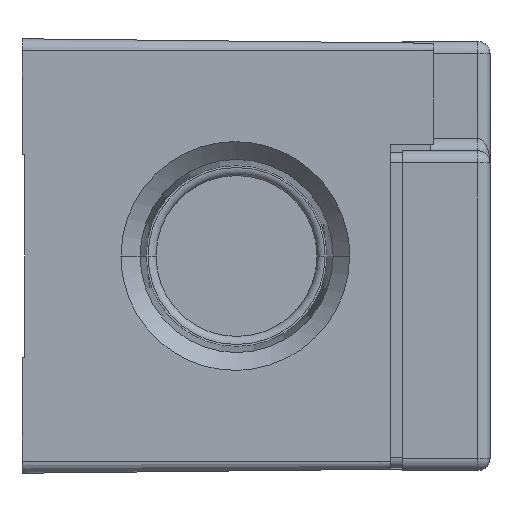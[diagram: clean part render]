
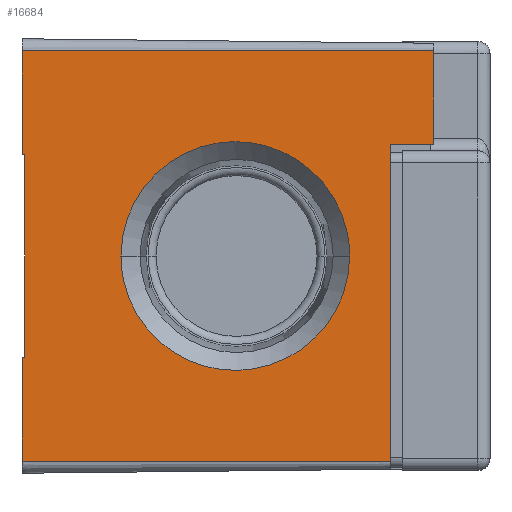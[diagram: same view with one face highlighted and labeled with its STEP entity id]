
A CAD part, front view. The second image highlights one B-rep face of the part: STEP entity #16684.
In plain terms, the highlighted planar face has unit normal (0.011, -1, 0).
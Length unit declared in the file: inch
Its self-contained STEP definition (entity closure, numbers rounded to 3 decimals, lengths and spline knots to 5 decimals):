
#1990=DIRECTION('',(0.,0.,1.));
#1991=VECTOR('',#1990,0.756);
#1992=CARTESIAN_POINT('',(-0.835,-3.20389,-0.378));
#1993=LINE('',#1992,#1991);
#1994=DIRECTION('',(1.,0.011,0.));
#1995=VECTOR('',#1994,0.01);
#1996=CARTESIAN_POINT('',(-0.845,-3.204,0.378));
#1997=LINE('',#1996,#1995);
#1998=DIRECTION('',(0.,0.,1.));
#1999=VECTOR('',#1998,0.387);
#2000=CARTESIAN_POINT('',(-0.845,-3.204,0.378));
#2001=LINE('',#2000,#1999);
#2002=DIRECTION('',(0.,0.,1.));
#2003=VECTOR('',#2002,0.348);
#2004=CARTESIAN_POINT('',(0.69,-3.18739,0.417));
#2005=LINE('',#2004,#2003);
#2006=DIRECTION('',(-1.,-0.011,0.));
#2007=VECTOR('',#2006,0.16001);
#2008=CARTESIAN_POINT('',(0.69,-3.18739,0.417));
#2009=LINE('',#2008,#2007);
#2010=DIRECTION('',(0.,0.,1.));
#2011=VECTOR('',#2010,0.387);
#2012=CARTESIAN_POINT('',(-0.845,-3.204,-0.765));
#2013=LINE('',#2012,#2011);
#2014=DIRECTION('',(1.,0.011,0.));
#2015=VECTOR('',#2014,0.01);
#2016=CARTESIAN_POINT('',(-0.845,-3.204,-0.378));
#2017=LINE('',#2016,#2015);
#2018=CARTESIAN_POINT('',(0.37678,-3.19078,0.));
#2019=CARTESIAN_POINT('',(0.37678,-3.19078,
-0.02512));
#2020=CARTESIAN_POINT('',(0.37232,-3.19083,
-0.07725));
#2021=CARTESIAN_POINT('',(0.34969,-3.19107,
-0.15743));
#2022=CARTESIAN_POINT('',(0.30997,-3.1915,
-0.23469));
#2023=CARTESIAN_POINT('',(0.25407,-3.19211,
-0.30367));
#2024=CARTESIAN_POINT('',(0.19659,-3.19273,
-0.35024));
#2025=CARTESIAN_POINT('',(0.14646,-3.19327,
-0.37943));
#2026=CARTESIAN_POINT('',(0.10746,-3.19369,
-0.39714));
#2027=CARTESIAN_POINT('',(0.06773,-3.19412,
-0.4106));
#2028=CARTESIAN_POINT('',(0.03453,-3.19448,
-0.41836));
#2029=CARTESIAN_POINT('',(0.00822,-3.19477,
-0.42258));
#2030=CARTESIAN_POINT('',(-0.01134,-3.19498,
-0.4248));
#2031=CARTESIAN_POINT('',(-0.02743,-3.19515,
-0.42587));
#2032=CARTESIAN_POINT('',(-0.04017,-3.19529,
-0.4263));
#2033=CARTESIAN_POINT('',(-0.04961,-3.19539,
-0.4264));
#2034=CARTESIAN_POINT('',(-0.05906,-3.19549,
-0.4263));
#2035=CARTESIAN_POINT('',(-0.07179,-3.19563,
-0.42587));
#2036=CARTESIAN_POINT('',(-0.08789,-3.19581,
-0.4248));
#2037=CARTESIAN_POINT('',(-0.10744,-3.19602,
-0.42258));
#2038=CARTESIAN_POINT('',(-0.13376,-3.1963,
-0.41836));
#2039=CARTESIAN_POINT('',(-0.16696,-3.19666,
-0.4106));
#2040=CARTESIAN_POINT('',(-0.20669,-3.19709,
-0.39714));
#2041=CARTESIAN_POINT('',(-0.24569,-3.19751,
-0.37943));
#2042=CARTESIAN_POINT('',(-0.29582,-3.19806,
-0.35024));
#2043=CARTESIAN_POINT('',(-0.3533,-3.19868,
-0.30367));
#2044=CARTESIAN_POINT('',(-0.4092,-3.19928,
-0.23469));
#2045=CARTESIAN_POINT('',(-0.44892,-3.19971,
-0.15743));
#2046=CARTESIAN_POINT('',(-0.47154,-3.19996,
-0.07725));
#2047=CARTESIAN_POINT('',(-0.47601,-3.20001,
-0.02512));
#2048=CARTESIAN_POINT('',(-0.47601,-3.20001,0.));
#2050=CARTESIAN_POINT('',(-0.47601,-3.20001,0.));
#2051=CARTESIAN_POINT('',(-0.47601,-3.20001,
0.02512));
#2052=CARTESIAN_POINT('',(-0.47154,-3.19996,
0.07725));
#2053=CARTESIAN_POINT('',(-0.44892,-3.19971,
0.15743));
#2054=CARTESIAN_POINT('',(-0.4092,-3.19928,
0.23469));
#2055=CARTESIAN_POINT('',(-0.3533,-3.19868,
0.30367));
#2056=CARTESIAN_POINT('',(-0.29582,-3.19806,
0.35024));
#2057=CARTESIAN_POINT('',(-0.24569,-3.19751,
0.37943));
#2058=CARTESIAN_POINT('',(-0.20669,-3.19709,
0.39714));
#2059=CARTESIAN_POINT('',(-0.16696,-3.19666,
0.4106));
#2060=CARTESIAN_POINT('',(-0.13376,-3.1963,
0.41836));
#2061=CARTESIAN_POINT('',(-0.10744,-3.19602,
0.42258));
#2062=CARTESIAN_POINT('',(-0.08789,-3.19581,
0.4248));
#2063=CARTESIAN_POINT('',(-0.07179,-3.19563,
0.42587));
#2064=CARTESIAN_POINT('',(-0.05906,-3.19549,
0.4263));
#2065=CARTESIAN_POINT('',(-0.04961,-3.19539,
0.4264));
#2066=CARTESIAN_POINT('',(-0.04017,-3.19529,
0.4263));
#2067=CARTESIAN_POINT('',(-0.02743,-3.19515,
0.42587));
#2068=CARTESIAN_POINT('',(-0.01134,-3.19498,
0.4248));
#2069=CARTESIAN_POINT('',(0.00822,-3.19477,
0.42258));
#2070=CARTESIAN_POINT('',(0.03453,-3.19448,
0.41836));
#2071=CARTESIAN_POINT('',(0.06773,-3.19412,
0.4106));
#2072=CARTESIAN_POINT('',(0.10746,-3.19369,
0.39714));
#2073=CARTESIAN_POINT('',(0.14646,-3.19327,
0.37943));
#2074=CARTESIAN_POINT('',(0.19659,-3.19273,
0.35024));
#2075=CARTESIAN_POINT('',(0.25407,-3.19211,
0.30367));
#2076=CARTESIAN_POINT('',(0.30997,-3.1915,
0.23469));
#2077=CARTESIAN_POINT('',(0.34969,-3.19107,
0.15743));
#2078=CARTESIAN_POINT('',(0.37232,-3.19083,
0.07725));
#2079=CARTESIAN_POINT('',(0.37678,-3.19078,
0.02512));
#2080=CARTESIAN_POINT('',(0.37678,-3.19078,0.));
#2363=DIRECTION('',(0.,0.,1.));
#2364=VECTOR('',#2363,1.182);
#2365=CARTESIAN_POINT('',(0.53,-3.18912,-0.765));
#2366=LINE('',#2365,#2364);
#4131=DIRECTION('',(1.,0.011,0.));
#4132=VECTOR('',#4131,1.53509);
#4133=CARTESIAN_POINT('',(-0.845,-3.204,0.765));
#4134=LINE('',#4133,#4132);
#4559=DIRECTION('',(1.,0.011,0.));
#4560=VECTOR('',#4559,1.37508);
#4561=CARTESIAN_POINT('',(-0.845,-3.204,-0.765));
#4562=LINE('',#4561,#4560);
#13708=CARTESIAN_POINT('',(0.69,-3.18739,0.417));
#13709=CARTESIAN_POINT('',(0.53,-3.18912,0.417));
#13710=VERTEX_POINT('',#13708);
#13711=VERTEX_POINT('',#13709);
#13716=CARTESIAN_POINT('',(-0.845,-3.204,0.765));
#13717=CARTESIAN_POINT('',(0.69,-3.18739,0.765));
#13718=VERTEX_POINT('',#13716);
#13719=VERTEX_POINT('',#13717);
#13724=CARTESIAN_POINT('',(-0.845,-3.204,-0.765));
#13725=CARTESIAN_POINT('',(0.53,-3.18912,-0.765));
#13726=VERTEX_POINT('',#13724);
#13727=VERTEX_POINT('',#13725);
#13744=CARTESIAN_POINT('',(-0.835,-3.20389,-0.378));
#13745=CARTESIAN_POINT('',(-0.835,-3.20389,0.378));
#13746=VERTEX_POINT('',#13744);
#13747=VERTEX_POINT('',#13745);
#13748=CARTESIAN_POINT('',(-0.845,-3.204,-0.378));
#13749=VERTEX_POINT('',#13748);
#13750=CARTESIAN_POINT('',(-0.845,-3.204,0.378));
#13751=VERTEX_POINT('',#13750);
#13752=VERTEX_POINT('',#2018);
#13753=VERTEX_POINT('',#2048);
#16654=CARTESIAN_POINT('',(-0.845,-3.204,-1.81479));
#16655=DIRECTION('',(0.011,-1.,0.));
#16656=DIRECTION('',(0.,0.,1.));
#16657=AXIS2_PLACEMENT_3D('',#16654,#16655,#16656);
#16658=PLANE('',#16657);
#16659=ORIENTED_EDGE('',*,*,#16553,.T.);
#16661=ORIENTED_EDGE('',*,*,#16660,.F.);
#16663=ORIENTED_EDGE('',*,*,#16662,.T.);
#16665=ORIENTED_EDGE('',*,*,#16664,.T.);
#16667=ORIENTED_EDGE('',*,*,#16666,.F.);
#16669=ORIENTED_EDGE('',*,*,#16668,.T.);
#16671=ORIENTED_EDGE('',*,*,#16670,.F.);
#16673=ORIENTED_EDGE('',*,*,#16672,.F.);
#16674=ORIENTED_EDGE('',*,*,#16627,.T.);
#16675=ORIENTED_EDGE('',*,*,#16649,.T.);
#16676=EDGE_LOOP('',(#16659,#16661,#16663,#16665,#16667,#16669,#16671,#16673,
#16674,#16675));
#16677=FACE_OUTER_BOUND('',#16676,.F.);
#16679=ORIENTED_EDGE('',*,*,#16678,.F.);
#16681=ORIENTED_EDGE('',*,*,#16680,.F.);
#16682=EDGE_LOOP('',(#16679,#16681));
#16683=FACE_BOUND('',#16682,.F.);
#16684=ADVANCED_FACE('',(#16677,#16683),#16658,.T.);
#2049=B_SPLINE_CURVE_WITH_KNOTS('',3,(#2018,#2019,#2020,#2021,#2022,#2023,#2024,
#2025,#2026,#2027,#2028,#2029,#2030,#2031,#2032,#2033,#2034,#2035,#2036,#2037,
#2038,#2039,#2040,#2041,#2042,#2043,#2044,#2045,#2046,#2047,#2048),
.UNSPECIFIED.,.F.,.F.,(4,1,1,1,1,1,1,1,1,1,1,1,1,1,1,1,1,1,1,1,1,1,1,1,1,1,1,1,
4),(0.,0.0625,0.125,0.1875,0.25,0.3125,0.34375,0.375,0.40625,
0.4375,0.45313,0.46875,0.48438,0.49219,0.5,0.50781,
0.51563,0.53125,0.54688,0.5625,0.59375,0.625,0.65625,0.6875,
0.75,0.8125,0.875,0.9375,1.),.UNSPECIFIED.);
#2081=B_SPLINE_CURVE_WITH_KNOTS('',3,(#2050,#2051,#2052,#2053,#2054,#2055,#2056,
#2057,#2058,#2059,#2060,#2061,#2062,#2063,#2064,#2065,#2066,#2067,#2068,#2069,
#2070,#2071,#2072,#2073,#2074,#2075,#2076,#2077,#2078,#2079,#2080),
.UNSPECIFIED.,.F.,.F.,(4,1,1,1,1,1,1,1,1,1,1,1,1,1,1,1,1,1,1,1,1,1,1,1,1,1,1,1,
4),(0.,0.0625,0.125,0.1875,0.25,0.3125,0.34375,0.375,0.40625,
0.4375,0.45313,0.46875,0.48438,0.49219,0.5,0.50781,
0.51563,0.53125,0.54688,0.5625,0.59375,0.625,0.65625,0.6875,
0.75,0.8125,0.875,0.9375,1.),.UNSPECIFIED.);
#16553=EDGE_CURVE('',#13746,#13747,#1993,.T.);
#16627=EDGE_CURVE('',#13726,#13749,#2013,.T.);
#16649=EDGE_CURVE('',#13749,#13746,#2017,.T.);
#16660=EDGE_CURVE('',#13751,#13747,#1997,.T.);
#16662=EDGE_CURVE('',#13751,#13718,#2001,.T.);
#16664=EDGE_CURVE('',#13718,#13719,#4134,.T.);
#16666=EDGE_CURVE('',#13710,#13719,#2005,.T.);
#16668=EDGE_CURVE('',#13710,#13711,#2009,.T.);
#16670=EDGE_CURVE('',#13727,#13711,#2366,.T.);
#16672=EDGE_CURVE('',#13726,#13727,#4562,.T.);
#16678=EDGE_CURVE('',#13752,#13753,#2049,.T.);
#16680=EDGE_CURVE('',#13753,#13752,#2081,.T.);
